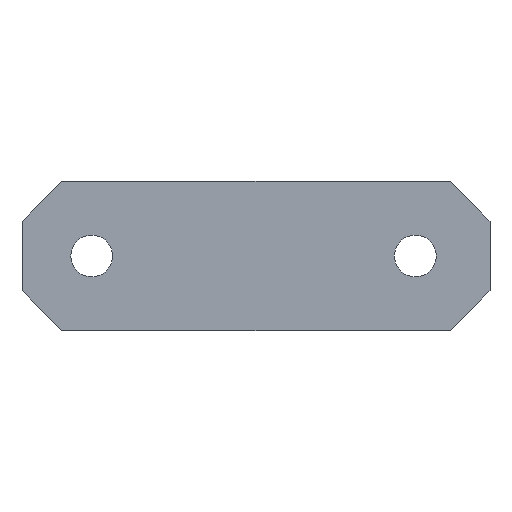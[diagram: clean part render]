
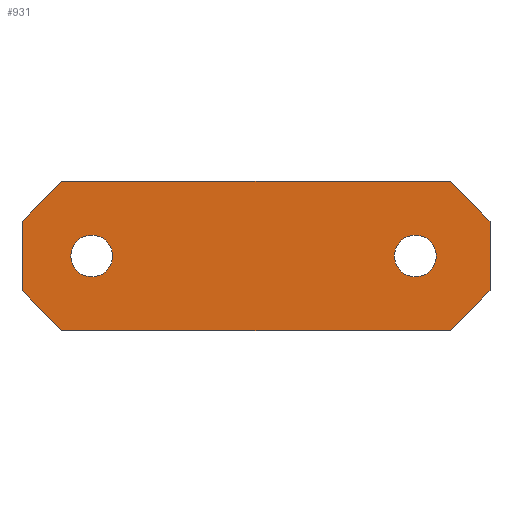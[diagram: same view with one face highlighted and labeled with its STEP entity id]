
A CAD part, front view. The second image highlights one B-rep face of the part: STEP entity #931.
In plain terms, the highlighted planar face has unit normal (0, -1, 0).
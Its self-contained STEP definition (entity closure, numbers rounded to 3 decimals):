
#22=CIRCLE('',#989,2.1);
#23=CIRCLE('',#990,2.1);
#31=FACE_BOUND('',#139,.T.);
#32=FACE_BOUND('',#140,.T.);
#82=FACE_OUTER_BOUND('',#138,.T.);
#138=EDGE_LOOP('',(#802,#803,#804,#805,#806,#807,#808,#809));
#139=EDGE_LOOP('',(#810));
#140=EDGE_LOOP('',(#811));
#217=LINE('',#1370,#333);
#240=LINE('',#1418,#356);
#242=LINE('',#1422,#358);
#244=LINE('',#1426,#360);
#248=LINE('',#1434,#364);
#268=LINE('',#1475,#384);
#269=LINE('',#1478,#385);
#270=LINE('',#1479,#386);
#333=VECTOR('',#1109,10.);
#356=VECTOR('',#1152,10.);
#358=VECTOR('',#1156,10.);
#360=VECTOR('',#1160,10.);
#364=VECTOR('',#1166,10.);
#384=VECTOR('',#1208,10.);
#385=VECTOR('',#1211,10.);
#386=VECTOR('',#1212,10.);
#429=VERTEX_POINT('',#1367);
#430=VERTEX_POINT('',#1369);
#445=VERTEX_POINT('',#1416);
#446=VERTEX_POINT('',#1420);
#447=VERTEX_POINT('',#1424);
#450=VERTEX_POINT('',#1432);
#460=VERTEX_POINT('',#1473);
#461=VERTEX_POINT('',#1477);
#462=VERTEX_POINT('',#1480);
#463=VERTEX_POINT('',#1482);
#529=EDGE_CURVE('',#430,#429,#217,.T.);
#553=EDGE_CURVE('',#445,#429,#240,.T.);
#555=EDGE_CURVE('',#445,#446,#242,.T.);
#557=EDGE_CURVE('',#447,#446,#244,.T.);
#561=EDGE_CURVE('',#450,#447,#248,.T.);
#582=EDGE_CURVE('',#460,#450,#268,.T.);
#583=EDGE_CURVE('',#461,#460,#269,.T.);
#584=EDGE_CURVE('',#430,#461,#270,.T.);
#585=EDGE_CURVE('',#462,#462,#22,.T.);
#586=EDGE_CURVE('',#463,#463,#23,.T.);
#802=ORIENTED_EDGE('',*,*,#582,.F.);
#803=ORIENTED_EDGE('',*,*,#583,.F.);
#804=ORIENTED_EDGE('',*,*,#584,.F.);
#805=ORIENTED_EDGE('',*,*,#529,.T.);
#806=ORIENTED_EDGE('',*,*,#553,.F.);
#807=ORIENTED_EDGE('',*,*,#555,.T.);
#808=ORIENTED_EDGE('',*,*,#557,.F.);
#809=ORIENTED_EDGE('',*,*,#561,.F.);
#810=ORIENTED_EDGE('',*,*,#585,.T.);
#811=ORIENTED_EDGE('',*,*,#586,.T.);
#883=PLANE('',#988);
#931=ADVANCED_FACE('',(#82,#31,#32),#883,.T.);
#988=AXIS2_PLACEMENT_3D('',#1476,#1209,#1210);
#989=AXIS2_PLACEMENT_3D('',#1481,#1213,#1214);
#990=AXIS2_PLACEMENT_3D('',#1483,#1215,#1216);
#1109=DIRECTION('',(1.,0.,0.));
#1152=DIRECTION('',(-0.707,0.,-0.707));
#1156=DIRECTION('',(0.,0.,1.));
#1160=DIRECTION('',(0.707,0.,-0.707));
#1166=DIRECTION('',(1.,0.,0.));
#1208=DIRECTION('',(0.707,0.,0.707));
#1209=DIRECTION('center_axis',(0.,-1.,0.));
#1210=DIRECTION('ref_axis',(1.,0.,0.));
#1211=DIRECTION('',(0.,0.,1.));
#1212=DIRECTION('',(-0.707,0.,0.707));
#1213=DIRECTION('center_axis',(0.,1.,0.));
#1214=DIRECTION('ref_axis',(-1.,0.,0.));
#1215=DIRECTION('center_axis',(0.,1.,0.));
#1216=DIRECTION('ref_axis',(-1.,0.,0.));
#1367=CARTESIAN_POINT('',(139.289,-110.,0.));
#1369=CARTESIAN_POINT('',(100.289,-110.,0.));
#1370=CARTESIAN_POINT('',(-113.027,-110.,0.));
#1416=CARTESIAN_POINT('',(143.289,-110.,4.));
#1418=CARTESIAN_POINT('',(129.539,-110.,-9.75));
#1420=CARTESIAN_POINT('',(143.289,-110.,11.));
#1422=CARTESIAN_POINT('',(143.289,-110.,7.5));
#1424=CARTESIAN_POINT('',(139.289,-110.,15.));
#1426=CARTESIAN_POINT('',(133.289,-110.,21.));
#1432=CARTESIAN_POINT('',(100.289,-110.,15.));
#1434=CARTESIAN_POINT('',(-113.027,-110.,15.));
#1473=CARTESIAN_POINT('',(96.289,-110.,11.));
#1475=CARTESIAN_POINT('',(94.539,-110.,9.25));
#1476=CARTESIAN_POINT('Origin',(96.289,-110.,0.));
#1477=CARTESIAN_POINT('',(96.289,-110.,4.));
#1478=CARTESIAN_POINT('',(96.289,-110.,0.));
#1479=CARTESIAN_POINT('',(98.289,-110.,2.));
#1480=CARTESIAN_POINT('',(137.889,-110.,7.5));
#1481=CARTESIAN_POINT('Origin',(135.789,-110.,7.5));
#1482=CARTESIAN_POINT('',(105.389,-110.,7.5));
#1483=CARTESIAN_POINT('Origin',(103.289,-110.,7.5));
